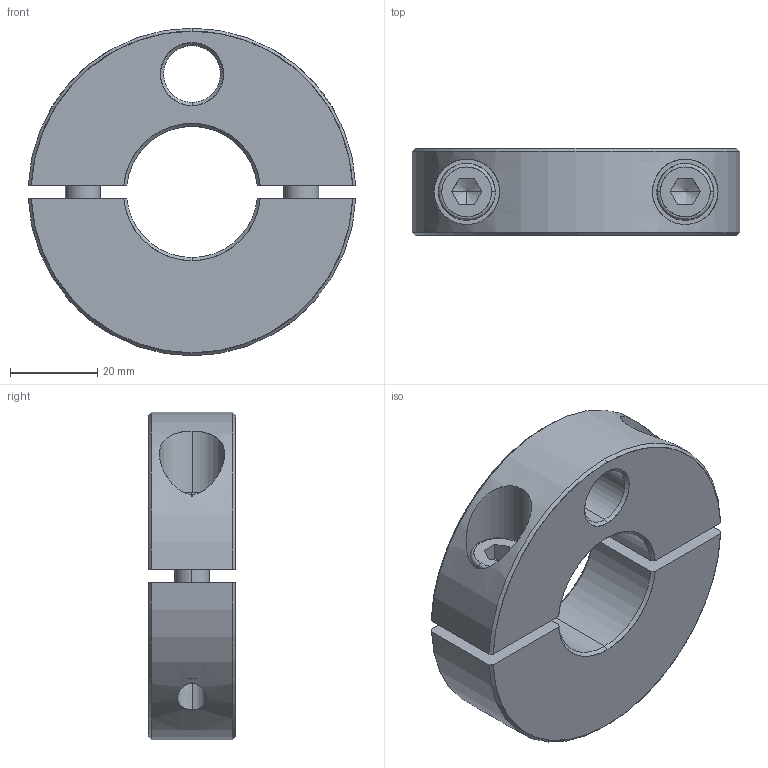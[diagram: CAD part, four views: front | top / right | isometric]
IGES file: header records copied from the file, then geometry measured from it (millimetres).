
Start section: SolidWorks IGES FILE using analytic representation for surfaces
Global section: file name: C:\WIX2\Positioning\3865\3865W130.igs; native system: SolidWorks 2003 by SolidWorks Corporation; preprocessor: Version 5.3; author: Joan; date: 030722.173014; units: millimetre
Bounding box: 74.94 x 20 x 75 mm (x, y, z)
Surface area: 21273.4 mm2 (no closed solid volume)
Topology: 0 solids, 0 shells, 100 faces, 1660 edges, 1655 vertices
Faces by surface type: revolution 66, bspline 34
